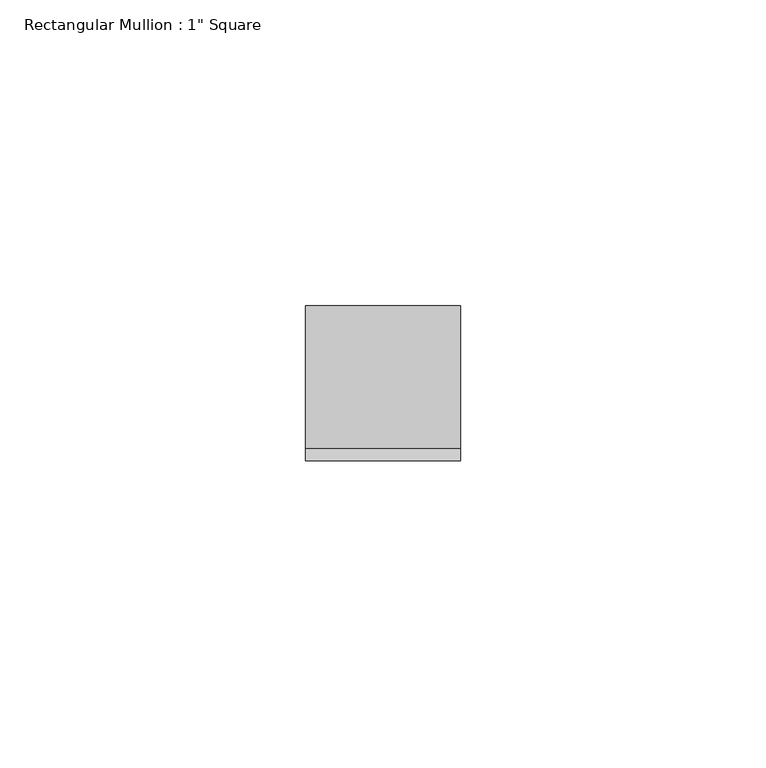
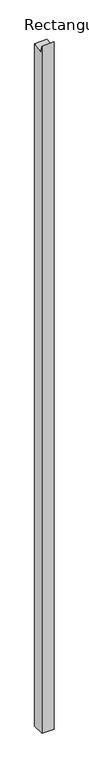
"""IFC4 building model written with IfcOpenShell, lengths in millimetres: member geometry."""

from ifc_helpers import new_model, si_unit, frame, origin, place, context, project, spatial, polyline, outline, extrude, source, transform, mapped, element, save


def member_04f0a375(model_context):
    return source(origin(), model_context, "Body", "SweptSolid", [
        extrude(outline(polyline([(-12.7, 11.7479412), (-10.6645783, -1.7515317), (12.7, 1.7713295), (12.7, -1485.9), (-12.7, -1485.9), (-12.7, 11.7479412)])), frame((-25.4, 0.0, 0.0), z_axis=(1.0, 0.0, 0.0), x_axis=(0.0, 1.0, 0.0)), (0.0, 0.0, 1.0), 25.4),
    ])


if __name__ == "__main__":
    model = new_model("IFC4")
    model_context = context("Model", 3, world=origin())
    ifc_project = project(units=[si_unit("LENGTHUNIT", "METRE", prefix="MILLI")], contexts=[model_context])
    site = spatial("IfcSite", under=ifc_project)
    building = spatial("IfcBuilding", under=site)
    placement = place(None, origin())
    member_shape = member_04f0a375(model_context)
    element("IfcMember", 1, ObjectType="Rectangular Mullion : 1\" Square", at=placement, inside=building, context=model_context, shape_type="MappedRepresentation", body=[
        mapped(member_shape, transform((0.0, 0.0, 0.0), x_axis=(1.0, 0.0, 0.0), y_axis=(0.0, 1.0, 0.0), z_axis=(0.0, 0.0, 1.0))),
    ])
    save(model, "model.ifc")
